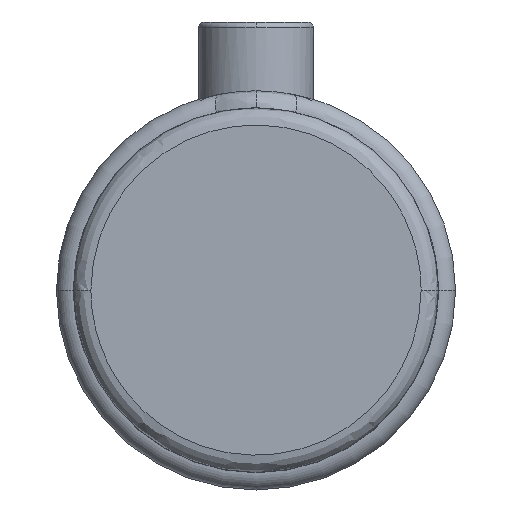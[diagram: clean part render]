
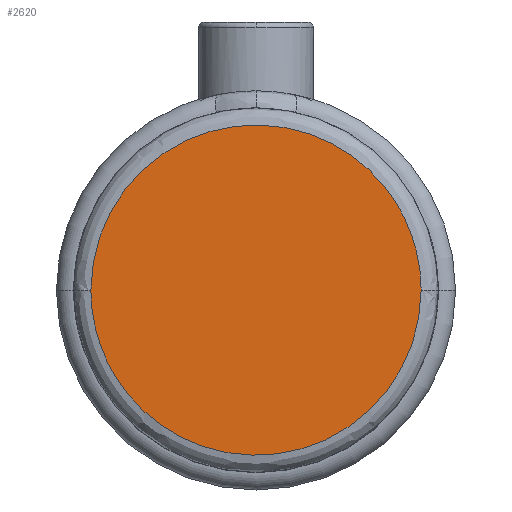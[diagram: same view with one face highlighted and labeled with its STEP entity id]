
A CAD part, top view. The second image highlights one B-rep face of the part: STEP entity #2620.
In plain terms, the highlighted planar face has unit normal (0, 0, 1).
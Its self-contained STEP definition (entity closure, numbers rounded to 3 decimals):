
#167 = EDGE_LOOP ( 'NONE', ( #7343, #5666 ) ) ;
#726 = EDGE_CURVE ( 'NONE', #4112, #2176, #5047, .T. ) ;
#1522 = CARTESIAN_POINT ( 'NONE',  ( 28.75, 0., 38. ) ) ;
#1576 = CARTESIAN_POINT ( 'NONE',  ( -28.75, 0., 38. ) ) ;
#1908 = AXIS2_PLACEMENT_3D ( 'NONE', #7546, #3294, #8285 ) ;
#2066 = CARTESIAN_POINT ( 'NONE',  ( -28.75, 0., 38. ) ) ;
#2176 = VERTEX_POINT ( 'NONE', #8784 ) ;
#2252 = CARTESIAN_POINT ( 'NONE',  ( -28.75, 0., 38. ) ) ;
#2529 = PLANE ( 'NONE',  #1908 ) ;
#2620 = ADVANCED_FACE ( 'NONE', ( #5575 ), #2529, .T. ) ;
#2790 = CARTESIAN_POINT ( 'NONE',  ( 28.75, 0., 38. ) ) ;
#3294 = DIRECTION ( 'NONE',  ( 0., 0., 1. ) ) ;
#4112 = VERTEX_POINT ( 'NONE', #1576 ) ;
#4298 = CARTESIAN_POINT ( 'NONE',  ( 28.75, -57.5, 38. ) ) ;
#4682 = EDGE_CURVE ( 'NONE', #2176, #4112, #7158, .T. ) ;
#5047 =( BOUNDED_CURVE ( )  B_SPLINE_CURVE ( 3, ( #2252, #5200, #5930, #1522 ),
 .UNSPECIFIED., .F., .T. ) 
 B_SPLINE_CURVE_WITH_KNOTS ( ( 4, 4 ),
 ( 0.75, 1.25 ),
 .UNSPECIFIED. ) 
 CURVE ( )  GEOMETRIC_REPRESENTATION_ITEM ( )  RATIONAL_B_SPLINE_CURVE ( ( 1., 0.333, 0.333, 1. ) ) 
 REPRESENTATION_ITEM ( '' )  );
#5200 = CARTESIAN_POINT ( 'NONE',  ( -28.75, 57.5, 38. ) ) ;
#5575 = FACE_OUTER_BOUND ( 'NONE', #167, .T. ) ;
#5666 = ORIENTED_EDGE ( 'NONE', *, *, #726, .F. ) ;
#5930 = CARTESIAN_POINT ( 'NONE',  ( 28.75, 57.5, 38. ) ) ;
#6430 = CARTESIAN_POINT ( 'NONE',  ( -28.75, -57.5, 38. ) ) ;
#7158 =( BOUNDED_CURVE ( )  B_SPLINE_CURVE ( 3, ( #2790, #4298, #6430, #2066 ),
 .UNSPECIFIED., .F., .T. ) 
 B_SPLINE_CURVE_WITH_KNOTS ( ( 4, 4 ),
 ( 0.25, 0.75 ),
 .UNSPECIFIED. ) 
 CURVE ( )  GEOMETRIC_REPRESENTATION_ITEM ( )  RATIONAL_B_SPLINE_CURVE ( ( 1., 0.333, 0.333, 1. ) ) 
 REPRESENTATION_ITEM ( '' )  );
#7343 = ORIENTED_EDGE ( 'NONE', *, *, #4682, .F. ) ;
#7546 = CARTESIAN_POINT ( 'NONE',  ( 0., 15.875, 38. ) ) ;
#8285 = DIRECTION ( 'NONE',  ( 0., -1., 0. ) ) ;
#8784 = CARTESIAN_POINT ( 'NONE',  ( 28.75, 0., 38. ) ) ;
